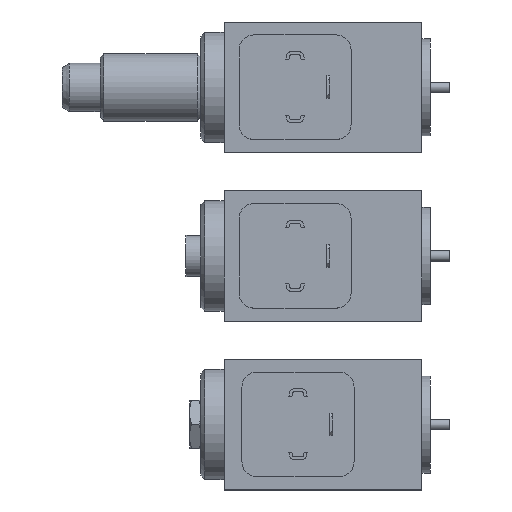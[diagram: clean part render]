
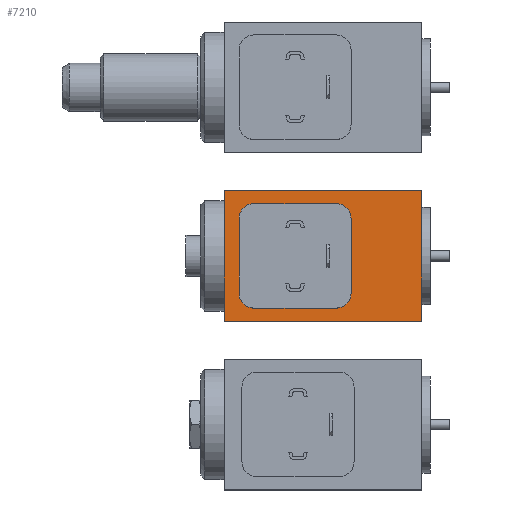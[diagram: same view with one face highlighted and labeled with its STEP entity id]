
A CAD part, top view. The second image highlights one B-rep face of the part: STEP entity #7210.
In plain terms, the highlighted planar face has unit normal (0, 0, 1).
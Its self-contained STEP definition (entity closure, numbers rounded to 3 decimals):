
#7210=ADVANCED_FACE('', (#7220,#7230,#7240,#7250,#7260), #7270, .T.);
#27170=AXIS2_PLACEMENT_3D('Ax2Pl3d', #27180, #27190, #27200);
#27250=AXIS2_PLACEMENT_3D('Ax2Pl3d', #27260, #27270, #27280);
#27290=AXIS2_PLACEMENT_3D('Ax2Pl3d', #27300, #27310, #27320);
#27330=AXIS2_PLACEMENT_3D('Ax2Pl3d', #27340, #27350, #27360);
#27370=AXIS2_PLACEMENT_3D('Ax2Pl3d', #27380, #27390, #27400);
#48370=CARTESIAN_POINT('', (53.,45.,115.));
#48380=CARTESIAN_POINT('', (53.,80.,115.));
#48390=CARTESIAN_POINT('', (53.,45.,115.));
#27180=CARTESIAN_POINT('HicPkt', (15.,62.5,115.));
#48490=CARTESIAN_POINT('', (15.,68.5,115.));
#27260=CARTESIAN_POINT('HicPkt', (53.,80.,115.));
#48510=CARTESIAN_POINT('', (0.,80.,115.));
#48520=CARTESIAN_POINT('', (0.,80.,115.));
#48530=CARTESIAN_POINT('', (0.,45.,115.));
#48540=CARTESIAN_POINT('', (0.,45.,115.));
#48550=CARTESIAN_POINT('', (0.,45.,115.));
#27300=CARTESIAN_POINT('HicPkt', (9.75,71.75,115.));
#48560=CARTESIAN_POINT('', (9.75,73.25,115.));
#27340=CARTESIAN_POINT('HicPkt', (25.5,62.5,115.));
#48570=CARTESIAN_POINT('', (25.5,64.,115.));
#27380=CARTESIAN_POINT('HicPkt', (28.25,53.25,115.));
#48580=CARTESIAN_POINT('', (28.25,54.75,115.));
#53410=CIRCLE('Circle', #27170, 6.);
#53430=CIRCLE('Circle', #27290, 1.5);
#53440=CIRCLE('Circle', #27330, 1.5);
#53450=CIRCLE('Circle', #27370, 1.5);
#81150=DIRECTION('', (0.,-1.,0.));
#27190=DIRECTION('Axis', (0.,0.,1.));
#27200=DIRECTION('RefDirection', (1.,0.,0.));
#27270=DIRECTION('Axis', (0.,0.,1.));
#27280=DIRECTION('RefDirection', (1.,0.,0.));
#81190=DIRECTION('', (-1.,0.,0.));
#81200=DIRECTION('', (0.,-1.,0.));
#81210=DIRECTION('', (-1.,0.,0.));
#27310=DIRECTION('Axis', (0.,0.,1.));
#27320=DIRECTION('RefDirection', (1.,0.,0.));
#27350=DIRECTION('Axis', (0.,0.,1.));
#27360=DIRECTION('RefDirection', (1.,0.,0.));
#27390=DIRECTION('Axis', (0.,0.,1.));
#27400=DIRECTION('RefDirection', (1.,0.,0.));
#91650=EDGE_CURVE('', #91660, #91670, #91680, .T.);
#91850=EDGE_CURVE('', #91860, #91860, #53410, .T.);
#91890=EDGE_CURVE('', #91660, #91900, #91910, .T.);
#91920=EDGE_CURVE('', #91900, #91930, #91940, .T.);
#91950=EDGE_CURVE('', #91670, #91930, #91960, .T.);
#91970=EDGE_CURVE('', #91980, #91980, #53430, .T.);
#91990=EDGE_CURVE('', #92000, #92000, #53440, .T.);
#92010=EDGE_CURVE('', #92020, #92020, #53450, .T.);
#108660=EDGE_LOOP('Edge_loop', (#108670,#108680,#108690,#108700));
#108710=EDGE_LOOP('Edge_loop', (#108720));
#108730=EDGE_LOOP('Edge_loop', (#108740));
#108750=EDGE_LOOP('Edge_loop', (#108760));
#108770=EDGE_LOOP('Edge_loop', (#108780));
#7230=FACE_BOUND('', #108710, .T.);
#7240=FACE_BOUND('', #108730, .T.);
#7250=FACE_BOUND('', #108750, .T.);
#7260=FACE_BOUND('', #108770, .T.);
#7220=FACE_OUTER_BOUND('Face_outer_bound', #108660, .T.);
#91680=LINE('Line', #48370, #127160);
#91910=LINE('Line', #48510, #127200);
#91940=LINE('Line', #48530, #127210);
#91960=LINE('Line', #48550, #127220);
#108670=ORIENTED_EDGE('', *, *, #91890, .T.);
#108680=ORIENTED_EDGE('', *, *, #91920, .T.);
#108690=ORIENTED_EDGE('', *, *, #91950, .F.);
#108700=ORIENTED_EDGE('', *, *, #91650, .F.);
#108720=ORIENTED_EDGE('', *, *, #91850, .F.);
#108740=ORIENTED_EDGE('', *, *, #91970, .F.);
#108760=ORIENTED_EDGE('', *, *, #91990, .F.);
#108780=ORIENTED_EDGE('', *, *, #92010, .F.);
#7270=PLANE('Plane', #27250);
#127160=VECTOR('', #81150, 35.);
#127200=VECTOR('', #81190, 53.);
#127210=VECTOR('', #81200, 35.);
#127220=VECTOR('', #81210, 53.);
#91660=VERTEX_POINT('', #48380);
#91670=VERTEX_POINT('', #48390);
#91860=VERTEX_POINT('', #48490);
#91900=VERTEX_POINT('', #48520);
#91930=VERTEX_POINT('', #48540);
#91980=VERTEX_POINT('', #48560);
#92000=VERTEX_POINT('', #48570);
#92020=VERTEX_POINT('', #48580);
